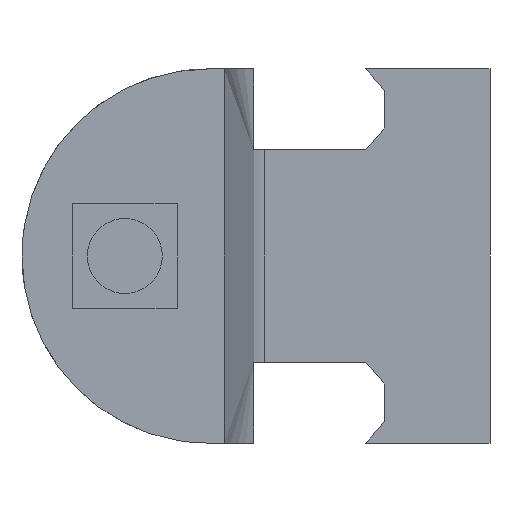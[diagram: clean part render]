
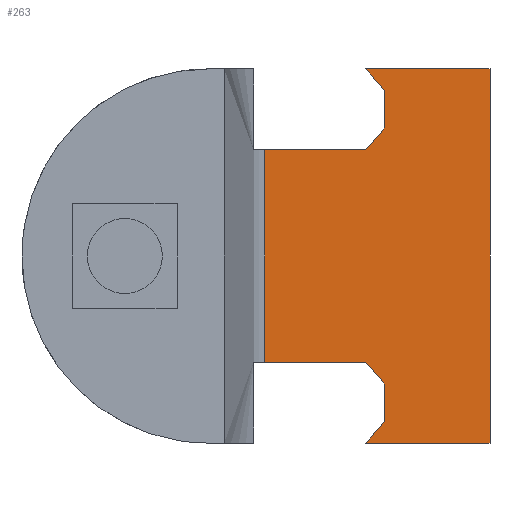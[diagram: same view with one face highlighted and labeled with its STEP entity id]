
A CAD part, front view. The second image highlights one B-rep face of the part: STEP entity #263.
In plain terms, the highlighted planar face has unit normal (0, -1, 0).
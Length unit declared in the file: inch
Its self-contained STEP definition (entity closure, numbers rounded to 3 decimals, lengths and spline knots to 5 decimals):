
#263=ADVANCED_FACE('',(#527),#528,.T.);
#527=FACE_OUTER_BOUND('',#1230,.T.);
#528=PLANE('',#1231);
#1230=EDGE_LOOP('',(#1792,#1793,#1794,#1795,#1796,#1797,#1798,#1799,#1800,#1801,#1802,#1803));
#1231=AXIS2_PLACEMENT_3D('',#1804,#1805,#1806);
#1792=ORIENTED_EDGE('',*,*,#2268,.T.);
#1793=ORIENTED_EDGE('',*,*,#2269,.T.);
#1794=ORIENTED_EDGE('',*,*,#2093,.T.);
#1795=ORIENTED_EDGE('',*,*,#2270,.T.);
#1796=ORIENTED_EDGE('',*,*,#2271,.T.);
#1797=ORIENTED_EDGE('',*,*,#2079,.F.);
#1798=ORIENTED_EDGE('',*,*,#2195,.T.);
#1799=ORIENTED_EDGE('',*,*,#2272,.T.);
#1800=ORIENTED_EDGE('',*,*,#2088,.T.);
#1801=ORIENTED_EDGE('',*,*,#2273,.T.);
#1802=ORIENTED_EDGE('',*,*,#2223,.T.);
#1803=ORIENTED_EDGE('',*,*,#2274,.T.);
#1804=CARTESIAN_POINT('',(1.01834,0.57926,0.0));
#1805=DIRECTION('',(0.0,-1.0,0.0));
#1806=DIRECTION('',(1.0,0.0,0.0));
#2079=EDGE_CURVE('',#2362,#2349,#2364,.T.);
#2088=EDGE_CURVE('',#2380,#2378,#2381,.T.);
#2093=EDGE_CURVE('',#2389,#2387,#2390,.T.);
#2195=EDGE_CURVE('',#2362,#2553,#2555,.T.);
#2223=EDGE_CURVE('',#2598,#2596,#2599,.T.);
#2268=EDGE_CURVE('',#2655,#2656,#2657,.T.);
#2269=EDGE_CURVE('',#2656,#2389,#2658,.T.);
#2270=EDGE_CURVE('',#2387,#2659,#2660,.T.);
#2271=EDGE_CURVE('',#2659,#2349,#2661,.T.);
#2272=EDGE_CURVE('',#2553,#2380,#2662,.T.);
#2273=EDGE_CURVE('',#2378,#2598,#2663,.T.);
#2274=EDGE_CURVE('',#2596,#2655,#2664,.T.);
#2349=VERTEX_POINT('',#2756);
#2362=VERTEX_POINT('',#2787);
#2364=LINE('',#2794,#2795);
#2378=VERTEX_POINT('',#2814);
#2380=VERTEX_POINT('',#2817);
#2381=LINE('',#2818,#2819);
#2387=VERTEX_POINT('',#2827);
#2389=VERTEX_POINT('',#2830);
#2390=LINE('',#2831,#2832);
#2553=VERTEX_POINT('',#3165);
#2555=LINE('',#3168,#3169);
#2596=VERTEX_POINT('',#3329);
#2598=VERTEX_POINT('',#3332);
#2599=LINE('',#3333,#3334);
#2655=VERTEX_POINT('',#3512);
#2656=VERTEX_POINT('',#3513);
#2657=LINE('',#3514,#3515);
#2658=LINE('',#3516,#3517);
#2659=VERTEX_POINT('',#3518);
#2660=LINE('',#3519,#3520);
#2661=LINE('',#3521,#3522);
#2662=LINE('',#3523,#3524);
#2663=LINE('',#3525,#3526);
#2664=LINE('',#3527,#3528);
#2756=CARTESIAN_POINT('',(0.64247,0.57926,0.97994));
#2787=CARTESIAN_POINT('',(0.64247,0.57926,0.27005));
#2794=CARTESIAN_POINT('',(0.64247,0.57926,0.0));
#2795=VECTOR('',#3648,1.0);
#2814=CARTESIAN_POINT('',(1.04235,0.57926,0.07259));
#2817=CARTESIAN_POINT('',(1.04235,0.57926,0.19755));
#2818=CARTESIAN_POINT('',(1.04235,0.57926,0.06754));
#2819=VECTOR('',#3655,1.0);
#2827=CARTESIAN_POINT('',(1.04235,0.57926,1.05244));
#2830=CARTESIAN_POINT('',(1.04235,0.57926,1.17739));
#2831=CARTESIAN_POINT('',(1.04235,0.57926,0.55746));
#2832=VECTOR('',#3659,1.0);
#3165=CARTESIAN_POINT('',(0.97987,0.57926,0.27005));
#3168=CARTESIAN_POINT('',(0.90537,0.57926,0.27005));
#3169=VECTOR('',#3715,1.0);
#3329=CARTESIAN_POINT('',(1.39422,0.57926,0.00009));
#3332=CARTESIAN_POINT('',(0.97987,0.57926,0.00009));
#3333=CARTESIAN_POINT('',(1.11658,0.57926,0.00009));
#3334=VECTOR('',#3728,1.0);
#3512=CARTESIAN_POINT('',(1.39422,0.57926,1.24989));
#3513=CARTESIAN_POINT('',(0.97987,0.57926,1.24989));
#3514=CARTESIAN_POINT('',(1.11658,0.57926,1.24989));
#3515=VECTOR('',#3744,1.0);
#3516=CARTESIAN_POINT('',(1.31273,0.57926,0.86362));
#3517=VECTOR('',#3745,1.0);
#3518=CARTESIAN_POINT('',(0.97987,0.57926,0.97994));
#3519=CARTESIAN_POINT('',(0.76139,0.57926,0.7264));
#3520=VECTOR('',#3746,1.0);
#3521=CARTESIAN_POINT('',(0.90537,0.57926,0.97994));
#3522=VECTOR('',#3747,1.0);
#3523=CARTESIAN_POINT('',(1.07046,0.57926,0.16493));
#3524=VECTOR('',#3748,1.0);
#3525=CARTESIAN_POINT('',(1.00366,0.57926,0.0277));
#3526=VECTOR('',#3749,1.0);
#3527=CARTESIAN_POINT('',(1.39422,0.57926,0.0));
#3528=VECTOR('',#3750,1.0);
#3648=DIRECTION('',(0.0,0.0,1.0));
#3655=DIRECTION('',(0.0,-0.0,-1.0));
#3659=DIRECTION('',(0.0,-0.0,-1.0));
#3715=DIRECTION('',(1.0,0.0,0.0));
#3728=DIRECTION('',(1.0,0.0,0.0));
#3744=DIRECTION('',(-1.0,0.0,0.0));
#3745=DIRECTION('',(0.653,-0.0,-0.758));
#3746=DIRECTION('',(-0.653,0.0,-0.758));
#3747=DIRECTION('',(-1.0,0.0,0.0));
#3748=DIRECTION('',(0.653,-0.0,-0.758));
#3749=DIRECTION('',(-0.653,0.0,-0.758));
#3750=DIRECTION('',(0.0,0.0,1.0));
